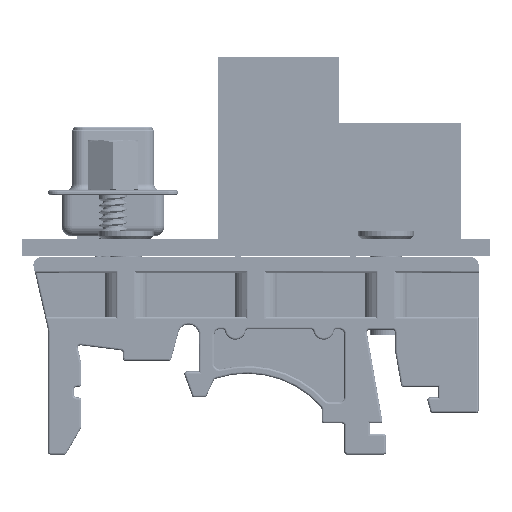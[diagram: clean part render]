
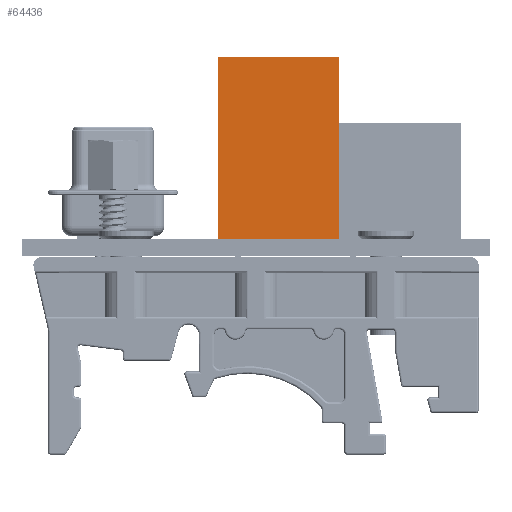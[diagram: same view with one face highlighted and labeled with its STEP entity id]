
A CAD part, left-side view. The second image highlights one B-rep face of the part: STEP entity #64436.
In plain terms, the highlighted planar face has unit normal (-1, 0, 0).
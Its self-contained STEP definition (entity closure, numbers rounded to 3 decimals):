
#64098 = VERTEX_POINT('',#64099);
#64099 = CARTESIAN_POINT('',(-4.25,0.,11.2));
#64107 = EDGE_CURVE('',#64098,#64108,#64110,.T.);
#64108 = VERTEX_POINT('',#64109);
#64109 = CARTESIAN_POINT('',(-4.25,0.,17.5));
#64110 = LINE('',#64111,#64112);
#64111 = CARTESIAN_POINT('',(-4.25,0.,0.));
#64112 = VECTOR('',#64113,1.);
#64113 = DIRECTION('',(0.,0.,1.));
#64317 = EDGE_CURVE('',#64318,#64108,#64320,.T.);
#64318 = VERTEX_POINT('',#64319);
#64319 = CARTESIAN_POINT('',(-4.25,11.7,17.5));
#64320 = LINE('',#64321,#64322);
#64321 = CARTESIAN_POINT('',(-4.25,11.7,17.5));
#64322 = VECTOR('',#64323,1.);
#64323 = DIRECTION('',(0.,-1.,0.));
#64436 = ADVANCED_FACE('',(#64437),#64463,.F.);
#64437 = FACE_BOUND('',#64438,.F.);
#64438 = EDGE_LOOP('',(#64439,#64447,#64448,#64449,#64457));
#64439 = ORIENTED_EDGE('',*,*,#64440,.T.);
#64440 = EDGE_CURVE('',#64441,#64318,#64443,.T.);
#64441 = VERTEX_POINT('',#64442);
#64442 = CARTESIAN_POINT('',(-4.25,11.7,0.));
#64443 = LINE('',#64444,#64445);
#64444 = CARTESIAN_POINT('',(-4.25,11.7,0.));
#64445 = VECTOR('',#64446,1.);
#64446 = DIRECTION('',(0.,0.,1.));
#64447 = ORIENTED_EDGE('',*,*,#64317,.T.);
#64448 = ORIENTED_EDGE('',*,*,#64107,.F.);
#64449 = ORIENTED_EDGE('',*,*,#64450,.F.);
#64450 = EDGE_CURVE('',#64451,#64098,#64453,.T.);
#64451 = VERTEX_POINT('',#64452);
#64452 = CARTESIAN_POINT('',(-4.25,0.,0.));
#64453 = LINE('',#64454,#64455);
#64454 = CARTESIAN_POINT('',(-4.25,0.,0.));
#64455 = VECTOR('',#64456,1.);
#64456 = DIRECTION('',(0.,0.,1.));
#64457 = ORIENTED_EDGE('',*,*,#64458,.F.);
#64458 = EDGE_CURVE('',#64441,#64451,#64459,.T.);
#64459 = LINE('',#64460,#64461);
#64460 = CARTESIAN_POINT('',(-4.25,11.7,0.));
#64461 = VECTOR('',#64462,1.);
#64462 = DIRECTION('',(0.,-1.,0.));
#64463 = PLANE('',#64464);
#64464 = AXIS2_PLACEMENT_3D('',#64465,#64466,#64467);
#64465 = CARTESIAN_POINT('',(-4.25,11.7,0.));
#64466 = DIRECTION('',(1.,0.,0.));
#64467 = DIRECTION('',(0.,-1.,0.));
